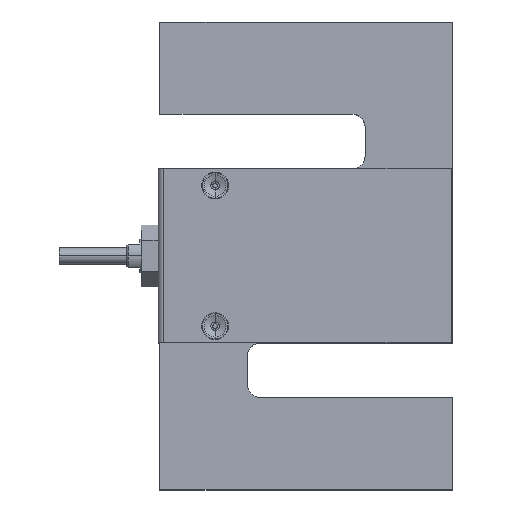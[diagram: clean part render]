
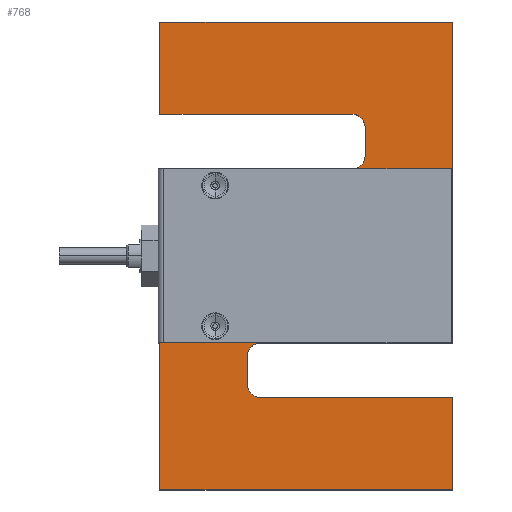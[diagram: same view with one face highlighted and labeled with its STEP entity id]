
A CAD part, top view. The second image highlights one B-rep face of the part: STEP entity #768.
In plain terms, the highlighted planar face has unit normal (0, 0, 1).
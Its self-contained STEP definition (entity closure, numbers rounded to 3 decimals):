
#62 = LINE ( 'NONE', #81, #967 ) ;
#63 = LINE ( 'NONE', #72, #945 ) ;
#64 = CARTESIAN_POINT ( 'NONE',  ( -13.6, -29.95, 37. ) ) ;
#65 = DIRECTION ( 'NONE',  ( 0., 0., -1. ) ) ;
#66 = DIRECTION ( 'NONE',  ( 1., 0., 0. ) ) ;
#72 = CARTESIAN_POINT ( 'NONE',  ( -13.6, -25.95, 37. ) ) ;
#73 = DIRECTION ( 'NONE',  ( 1., 0., 0. ) ) ;
#81 = CARTESIAN_POINT ( 'NONE',  ( 43.7, 69.85, 37. ) ) ;
#82 = DIRECTION ( 'NONE',  ( 0., 1., 0. ) ) ;
#83 = LINE ( 'NONE', #92, #965 ) ;
#92 = CARTESIAN_POINT ( 'NONE',  ( -43.7, 69.85, 37. ) ) ;
#93 = DIRECTION ( 'NONE',  ( -1., 0., 0. ) ) ;
#621 = EDGE_CURVE ( 'NONE', #3355, #2847, #3845, .T. ) ;
#626 = EDGE_CURVE ( 'NONE', #2847, #3345, #3857, .T. ) ;
#629 = EDGE_CURVE ( 'NONE', #3345, #2807, #4694, .T. ) ;
#632 = EDGE_CURVE ( 'NONE', #2807, #2460, #3876, .T. ) ;
#642 = EDGE_CURVE ( 'NONE', #2478, #2476, #3912, .T. ) ;
#646 = EDGE_CURVE ( 'NONE', #2476, #2475, #3921, .T. ) ;
#708 = EDGE_CURVE ( 'NONE', #2799, #2800, #4678, .T. ) ;
#768 = ADVANCED_FACE ( 'NONE', ( #4186, #4181 ), #4188, .T. ) ;
#779 = EDGE_CURVE ( 'NONE', #2461, #2804, #4268, .T. ) ;
#783 = EDGE_CURVE ( 'NONE', #2804, #2458, #4271, .T. ) ;
#786 = EDGE_CURVE ( 'NONE', #2458, #2481, #4332, .T. ) ;
#789 = EDGE_CURVE ( 'NONE', #2481, #2480, #4290, .T. ) ;
#792 = EDGE_CURVE ( 'NONE', #2480, #2478, #946, .T. ) ;
#796 = EDGE_CURVE ( 'NONE', #2460, #2803, #952, .T. ) ;
#799 = EDGE_CURVE ( 'NONE', #2803, #2457, #63, .T. ) ;
#802 = EDGE_CURVE ( 'NONE', #2457, #2454, #62, .T. ) ;
#806 = EDGE_CURVE ( 'NONE', #2454, #2461, #83, .T. ) ;
#941 = AXIS2_PLACEMENT_3D ( 'NONE', #4309, #4310, #4311 ) ;
#945 = VECTOR ( 'NONE', #73, 1000. ) ;
#946 = CIRCLE ( 'NONE', #941, 4. ) ;
#952 = CIRCLE ( 'NONE', #963, 4. ) ;
#963 = AXIS2_PLACEMENT_3D ( 'NONE', #64, #65, #66 ) ;
#965 = VECTOR ( 'NONE', #93, 1000. ) ;
#967 = VECTOR ( 'NONE', #82, 1000. ) ;
#1053 = AXIS2_PLACEMENT_3D ( 'NONE', #1964, #1965, #1966 ) ;
#1065 = CIRCLE ( 'NONE', #1053, 17. ) ;
#1080 = VECTOR ( 'NONE', #1963, 1000. ) ;
#1446 = VECTOR ( 'NONE', #4270, 1000. ) ;
#1605 = CARTESIAN_POINT ( 'NONE',  ( 43.7, -25.95, 37. ) ) ;
#1608 = CARTESIAN_POINT ( 'NONE',  ( 43.7, 69.85, 37. ) ) ;
#1610 = CARTESIAN_POINT ( 'NONE',  ( 13.6, 42.35, 37. ) ) ;
#1612 = CARTESIAN_POINT ( 'NONE',  ( -17.6, -29.95, 37. ) ) ;
#1613 = CARTESIAN_POINT ( 'NONE',  ( -43.7, 69.85, 37. ) ) ;
#1627 = CARTESIAN_POINT ( 'NONE',  ( -43.7, -69.85, 37. ) ) ;
#1628 = CARTESIAN_POINT ( 'NONE',  ( -43.7, 25.95, 37. ) ) ;
#1630 = CARTESIAN_POINT ( 'NONE',  ( 13.6, 25.95, 37. ) ) ;
#1632 = CARTESIAN_POINT ( 'NONE',  ( 17.6, 29.95, 37. ) ) ;
#1633 = CARTESIAN_POINT ( 'NONE',  ( 17.6, 38.35, 37. ) ) ;
#1687 = CARTESIAN_POINT ( 'NONE',  ( -17., 0., 37. ) ) ;
#1688 = CARTESIAN_POINT ( 'NONE',  ( 17., 0., 37. ) ) ;
#1691 = CARTESIAN_POINT ( 'NONE',  ( -13.6, -25.95, 37. ) ) ;
#1692 = CARTESIAN_POINT ( 'NONE',  ( -43.7, 42.35, 37. ) ) ;
#1695 = CARTESIAN_POINT ( 'NONE',  ( -17.6, -38.35, 37. ) ) ;
#1722 = CARTESIAN_POINT ( 'NONE',  ( 43.7, -42.35, 37. ) ) ;
#1873 = CARTESIAN_POINT ( 'NONE',  ( -13.6, -42.35, 37. ) ) ;
#1884 = CARTESIAN_POINT ( 'NONE',  ( 43.7, -69.85, 37. ) ) ;
#1954 = LINE ( 'NONE', #1962, #1080 ) ;
#1962 = CARTESIAN_POINT ( 'NONE',  ( -43.7, -69.85, 37. ) ) ;
#1963 = DIRECTION ( 'NONE',  ( 1., 0., 0. ) ) ;
#1964 = CARTESIAN_POINT ( 'NONE',  ( 0., 0., 37. ) ) ;
#1965 = DIRECTION ( 'NONE',  ( 0., 0., 1. ) ) ;
#1966 = DIRECTION ( 'NONE',  ( 1., 0., 0. ) ) ;
#2454 = VERTEX_POINT ( 'NONE', #1608 ) ;
#2457 = VERTEX_POINT ( 'NONE', #1605 ) ;
#2458 = VERTEX_POINT ( 'NONE', #1610 ) ;
#2460 = VERTEX_POINT ( 'NONE', #1612 ) ;
#2461 = VERTEX_POINT ( 'NONE', #1613 ) ;
#2475 = VERTEX_POINT ( 'NONE', #1627 ) ;
#2476 = VERTEX_POINT ( 'NONE', #1628 ) ;
#2478 = VERTEX_POINT ( 'NONE', #1630 ) ;
#2480 = VERTEX_POINT ( 'NONE', #1632 ) ;
#2481 = VERTEX_POINT ( 'NONE', #1633 ) ;
#2799 = VERTEX_POINT ( 'NONE', #1687 ) ;
#2800 = VERTEX_POINT ( 'NONE', #1688 ) ;
#2803 = VERTEX_POINT ( 'NONE', #1691 ) ;
#2804 = VERTEX_POINT ( 'NONE', #1692 ) ;
#2807 = VERTEX_POINT ( 'NONE', #1695 ) ;
#2847 = VERTEX_POINT ( 'NONE', #1722 ) ;
#3247 = EDGE_LOOP ( 'NONE', ( #3577, #3578 ) ) ;
#3250 = EDGE_LOOP ( 'NONE', ( #3579, #3580, #3581, #3582, #3583, #3584, #3678, #3679, #3680, #3681, #3682, #3683, #3684, #3685, #3686, #3687 ) ) ;
#3345 = VERTEX_POINT ( 'NONE', #1873 ) ;
#3355 = VERTEX_POINT ( 'NONE', #1884 ) ;
#3577 = ORIENTED_EDGE ( 'NONE', *, *, #4501, .F. ) ;
#3578 = ORIENTED_EDGE ( 'NONE', *, *, #708, .F. ) ;
#3579 = ORIENTED_EDGE ( 'NONE', *, *, #621, .T. ) ;
#3580 = ORIENTED_EDGE ( 'NONE', *, *, #626, .T. ) ;
#3581 = ORIENTED_EDGE ( 'NONE', *, *, #629, .T. ) ;
#3582 = ORIENTED_EDGE ( 'NONE', *, *, #632, .T. ) ;
#3583 = ORIENTED_EDGE ( 'NONE', *, *, #796, .T. ) ;
#3584 = ORIENTED_EDGE ( 'NONE', *, *, #799, .T. ) ;
#3678 = ORIENTED_EDGE ( 'NONE', *, *, #802, .T. ) ;
#3679 = ORIENTED_EDGE ( 'NONE', *, *, #806, .T. ) ;
#3680 = ORIENTED_EDGE ( 'NONE', *, *, #779, .T. ) ;
#3681 = ORIENTED_EDGE ( 'NONE', *, *, #783, .T. ) ;
#3682 = ORIENTED_EDGE ( 'NONE', *, *, #786, .T. ) ;
#3683 = ORIENTED_EDGE ( 'NONE', *, *, #789, .T. ) ;
#3684 = ORIENTED_EDGE ( 'NONE', *, *, #792, .T. ) ;
#3685 = ORIENTED_EDGE ( 'NONE', *, *, #642, .T. ) ;
#3686 = ORIENTED_EDGE ( 'NONE', *, *, #646, .T. ) ;
#3687 = ORIENTED_EDGE ( 'NONE', *, *, #4500, .T. ) ;
#3845 = LINE ( 'NONE', #3852, #4706 ) ;
#3852 = CARTESIAN_POINT ( 'NONE',  ( 43.7, -42.35, 37. ) ) ;
#3854 = DIRECTION ( 'NONE',  ( 0., 1., 0. ) ) ;
#3857 = LINE ( 'NONE', #3868, #4628 ) ;
#3868 = CARTESIAN_POINT ( 'NONE',  ( -13.6, -42.35, 37. ) ) ;
#3869 = DIRECTION ( 'NONE',  ( -1., 0., 0. ) ) ;
#3876 = LINE ( 'NONE', #3885, #4705 ) ;
#3877 = CARTESIAN_POINT ( 'NONE',  ( -13.6, -38.35, 37. ) ) ;
#3878 = DIRECTION ( 'NONE',  ( 0., 0., -1. ) ) ;
#3879 = DIRECTION ( 'NONE',  ( 1., 0., 0. ) ) ;
#3885 = CARTESIAN_POINT ( 'NONE',  ( -17.6, -29.95, 37. ) ) ;
#3887 = DIRECTION ( 'NONE',  ( 0., 1., 0. ) ) ;
#3912 = LINE ( 'NONE', #3919, #4658 ) ;
#3919 = CARTESIAN_POINT ( 'NONE',  ( 13.6, 25.95, 37. ) ) ;
#3920 = DIRECTION ( 'NONE',  ( -1., 0., 0. ) ) ;
#3921 = LINE ( 'NONE', #3931, #4619 ) ;
#3931 = CARTESIAN_POINT ( 'NONE',  ( -43.7, 25.95, 37. ) ) ;
#3932 = DIRECTION ( 'NONE',  ( 0., -1., 0. ) ) ;
#3975 = CARTESIAN_POINT ( 'NONE',  ( 0., 0., 37. ) ) ;
#3976 = DIRECTION ( 'NONE',  ( 0., 0., 1. ) ) ;
#3977 = DIRECTION ( 'NONE',  ( 1., 0., 0. ) ) ;
#4181 = FACE_OUTER_BOUND ( 'NONE', #3250, .T. ) ;
#4183 = DIRECTION ( 'NONE',  ( 0., 0., 1. ) ) ;
#4185 = CARTESIAN_POINT ( 'NONE',  ( 13.6, 29.95, 37. ) ) ;
#4186 = FACE_BOUND ( 'NONE', #3247, .T. ) ;
#4188 = PLANE ( 'NONE',  #4565 ) ;
#4190 = DIRECTION ( 'NONE',  ( 1., 0., 0. ) ) ;
#4268 = LINE ( 'NONE', #4269, #1446 ) ;
#4269 = CARTESIAN_POINT ( 'NONE',  ( -43.7, 69.85, 37. ) ) ;
#4270 = DIRECTION ( 'NONE',  ( 0., -1., 0. ) ) ;
#4271 = LINE ( 'NONE', #4281, #4328 ) ;
#4281 = CARTESIAN_POINT ( 'NONE',  ( 13.6, 42.35, 37. ) ) ;
#4282 = DIRECTION ( 'NONE',  ( 1., 0., 0. ) ) ;
#4290 = LINE ( 'NONE', #4299, #4339 ) ;
#4291 = CARTESIAN_POINT ( 'NONE',  ( 13.6, 38.35, 37. ) ) ;
#4292 = DIRECTION ( 'NONE',  ( 0., 0., -1. ) ) ;
#4293 = DIRECTION ( 'NONE',  ( 1., 0., 0. ) ) ;
#4299 = CARTESIAN_POINT ( 'NONE',  ( 17.6, 38.35, 37. ) ) ;
#4300 = DIRECTION ( 'NONE',  ( 0., -1., 0. ) ) ;
#4309 = CARTESIAN_POINT ( 'NONE',  ( 13.6, 29.95, 37. ) ) ;
#4310 = DIRECTION ( 'NONE',  ( 0., 0., -1. ) ) ;
#4311 = DIRECTION ( 'NONE',  ( 1., 0., 0. ) ) ;
#4328 = VECTOR ( 'NONE', #4282, 1000. ) ;
#4332 = CIRCLE ( 'NONE', #4336, 4. ) ;
#4336 = AXIS2_PLACEMENT_3D ( 'NONE', #4291, #4292, #4293 ) ;
#4339 = VECTOR ( 'NONE', #4300, 1000. ) ;
#4500 = EDGE_CURVE ( 'NONE', #2475, #3355, #1954, .T. ) ;
#4501 = EDGE_CURVE ( 'NONE', #2800, #2799, #1065, .T. ) ;
#4565 = AXIS2_PLACEMENT_3D ( 'NONE', #4185, #4183, #4190 ) ;
#4616 = AXIS2_PLACEMENT_3D ( 'NONE', #3877, #3878, #3879 ) ;
#4619 = VECTOR ( 'NONE', #3932, 1000. ) ;
#4628 = VECTOR ( 'NONE', #3869, 1000. ) ;
#4658 = VECTOR ( 'NONE', #3920, 1000. ) ;
#4662 = AXIS2_PLACEMENT_3D ( 'NONE', #3975, #3976, #3977 ) ;
#4678 = CIRCLE ( 'NONE', #4662, 17. ) ;
#4694 = CIRCLE ( 'NONE', #4616, 4. ) ;
#4705 = VECTOR ( 'NONE', #3887, 1000. ) ;
#4706 = VECTOR ( 'NONE', #3854, 1000. ) ;
